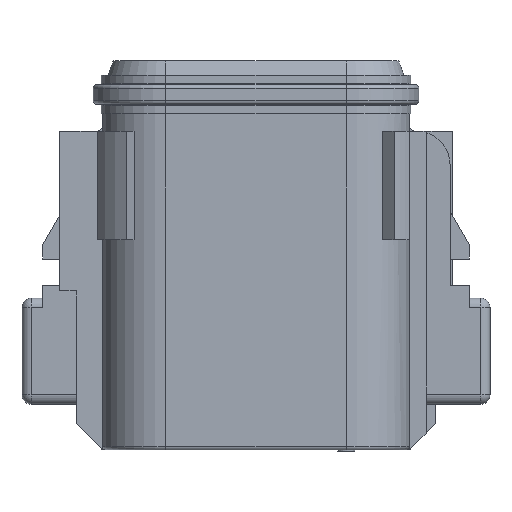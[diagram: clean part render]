
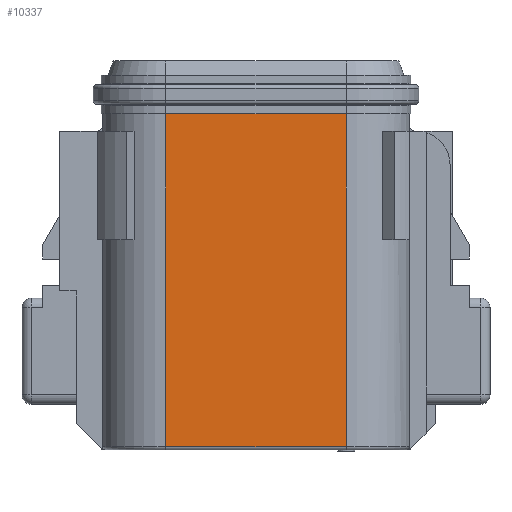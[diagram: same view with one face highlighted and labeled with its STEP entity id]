
A CAD part, front view. The second image highlights one B-rep face of the part: STEP entity #10337.
In plain terms, the highlighted planar face has unit normal (0, -1, 0).
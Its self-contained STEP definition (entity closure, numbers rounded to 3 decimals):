
#3463=DIRECTION('',(0.,0.,-1.));
#3464=VECTOR('',#3463,26.454);
#3465=CARTESIAN_POINT('',(7.176,-9.855,-4.204));
#3466=LINE('',#3465,#3464);
#3485=DIRECTION('',(0.,0.,-1.));
#3486=VECTOR('',#3485,26.454);
#3487=CARTESIAN_POINT('',(-7.176,-9.855,-4.204));
#3488=LINE('',#3487,#3486);
#3489=DIRECTION('',(1.,0.,0.));
#3490=VECTOR('',#3489,14.351);
#3491=CARTESIAN_POINT('',(-7.176,-9.855,-4.204));
#3492=LINE('',#3491,#3490);
#3493=DIRECTION('',(-1.,0.,0.));
#3494=VECTOR('',#3493,14.351);
#3495=CARTESIAN_POINT('',(7.176,-9.855,-30.658));
#3496=LINE('',#3495,#3494);
#5497=CARTESIAN_POINT('',(-7.176,-9.855,-30.658));
#5498=VERTEX_POINT('',#5497);
#5501=CARTESIAN_POINT('',(7.176,-9.855,-30.658));
#5502=VERTEX_POINT('',#5501);
#5711=CARTESIAN_POINT('',(-7.176,-9.855,-4.204));
#5712=VERTEX_POINT('',#5711);
#5713=CARTESIAN_POINT('',(7.176,-9.855,-4.204));
#5714=VERTEX_POINT('',#5713);
#10326=CARTESIAN_POINT('',(-7.176,-9.855,-3.81));
#10327=DIRECTION('',(0.,-1.,0.));
#10328=DIRECTION('',(1.,0.,0.));
#10329=AXIS2_PLACEMENT_3D('',#10326,#10327,#10328);
#10330=PLANE('',#10329);
#10331=ORIENTED_EDGE('',*,*,#10151,.F.);
#10332=ORIENTED_EDGE('',*,*,#7392,.T.);
#10333=ORIENTED_EDGE('',*,*,#10272,.T.);
#10334=ORIENTED_EDGE('',*,*,#10003,.T.);
#10335=EDGE_LOOP('',(#10331,#10332,#10333,#10334));
#10336=FACE_OUTER_BOUND('',#10335,.F.);
#10337=ADVANCED_FACE('',(#10336),#10330,.T.);
#7392=EDGE_CURVE('',#5712,#5714,#3492,.T.);
#10003=EDGE_CURVE('',#5502,#5498,#3496,.T.);
#10151=EDGE_CURVE('',#5712,#5498,#3488,.T.);
#10272=EDGE_CURVE('',#5714,#5502,#3466,.T.);
